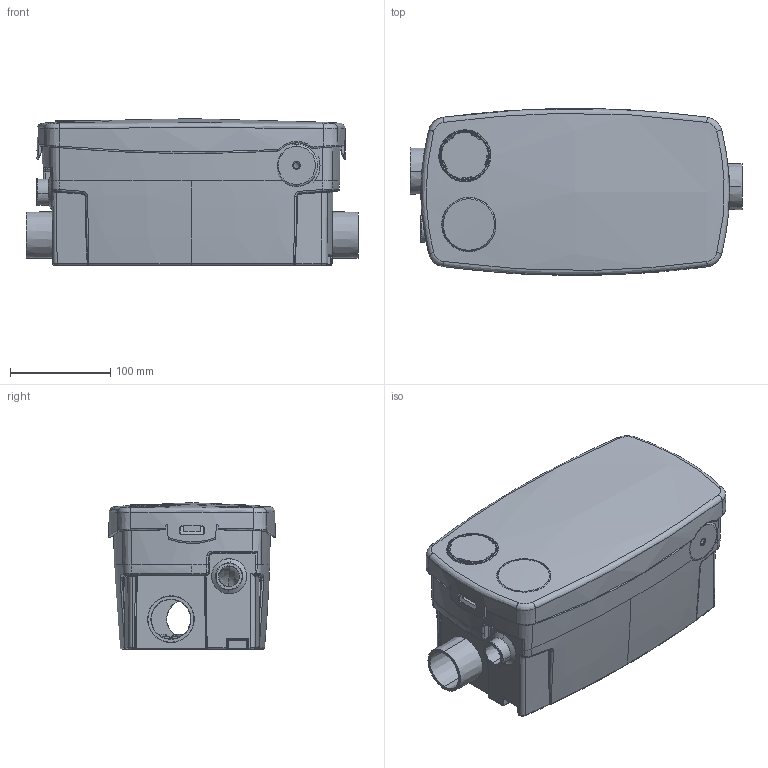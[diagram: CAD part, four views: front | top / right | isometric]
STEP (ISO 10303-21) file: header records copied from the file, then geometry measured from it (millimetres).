
FILE_DESCRIPTION (( 'STEP AP203' ), '1' );
FILE_NAME ('D2 2016.STEP', '2016-11-17T10:39:55', ( 'admin' ), ( '' ), 'SwSTEP 2.0', 'SolidWorks 2015', '' );
FILE_SCHEMA (( 'CONFIG_CONTROL_DESIGN' ));
Length unit declared in the file: millimetre
Products named in the file (6): D2 2016; CUV2163226-3227; COU2163228-3229; DUR97730; CAC2163230; Crosse monobloc D7
Assembly tree (5 placements, depth 2):
  D2 2016
    CUV2163226-3227
    COU2163228-3229
    DUR97730
    CAC2163230
    Crosse monobloc D7
Bounding box: 331 x 166.38 x 146.1 mm (x, y, z)
Volume: 780817.8 mm3; surface area: 537056.6 mm2
Topology: 7 solids, 7 shells, 1274 faces, 3282 edges, 2023 vertices
Faces by surface type: plane 347, bspline 283, cylinder 266, cone 222, torus 135, sphere 21
Entity records: 83840 total; most frequent: CARTESIAN_POINT 55114, ORIENTED_EDGE 6506, DIRECTION 5190, EDGE_CURVE 3253, AXIS2_PLACEMENT_3D 2073, VERTEX_POINT 2023, EDGE_LOOP 1328, ADVANCED_FACE 1274
